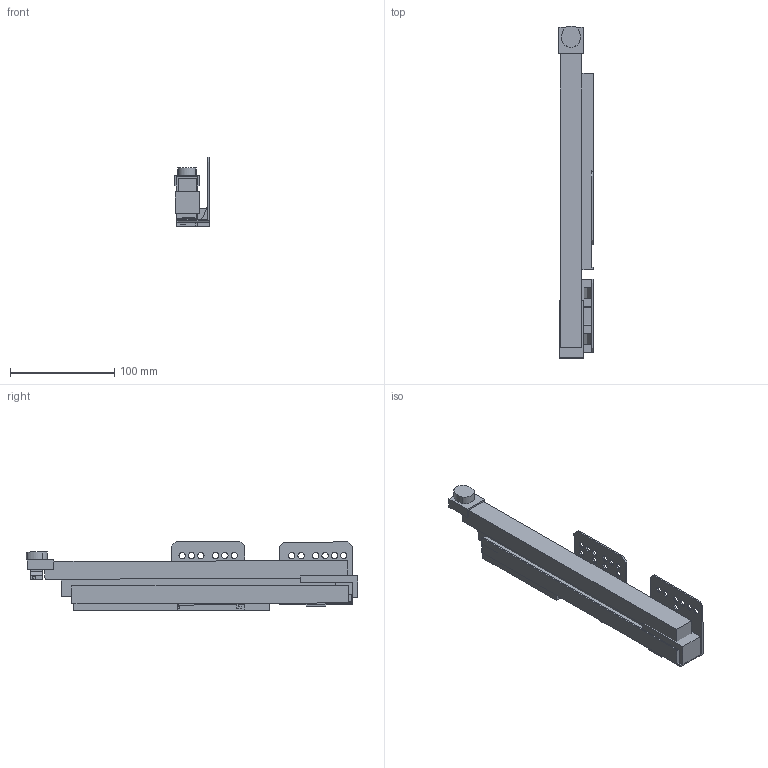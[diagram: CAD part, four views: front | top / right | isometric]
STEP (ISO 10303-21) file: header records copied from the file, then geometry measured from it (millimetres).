
FILE_DESCRIPTION (( 'STEP AP214' ), '1' );
FILE_NAME ('_IMOS Dynamic-XP VA 40kg NL300 RE Tipmatic.step', '2010-07-08T13:26:25', ( 'grass' ), ( '' ), 'SwSTEP 2.0', 'SolidWorks 2010', '' );
FILE_SCHEMA (( 'AUTOMOTIVE_DESIGN' ));
Length unit declared in the file: millimetre
Products named in the file (1): _IMOS Dynamic-XP VA 40kg NL300 RE Tipmatic
Bounding box: 33.14 x 318.02 x 66.67 mm (x, y, z)
Volume: 315222 mm3; surface area: 119689 mm2
Topology: 8 solids, 8 shells, 184 faces, 496 edges, 330 vertices
Faces by surface type: plane 137, cylinder 47
Entity records: 5917 total; most frequent: CARTESIAN_POINT 1011, ORIENTED_EDGE 992, DIRECTION 962, EDGE_CURVE 496, LINE 400, VECTOR 400, VERTEX_POINT 330, AXIS2_PLACEMENT_3D 281
